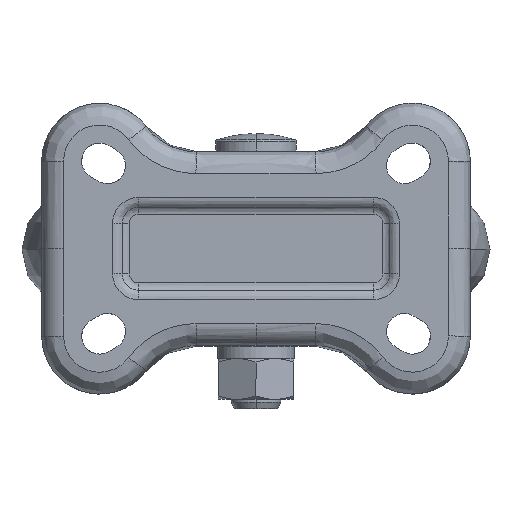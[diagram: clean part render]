
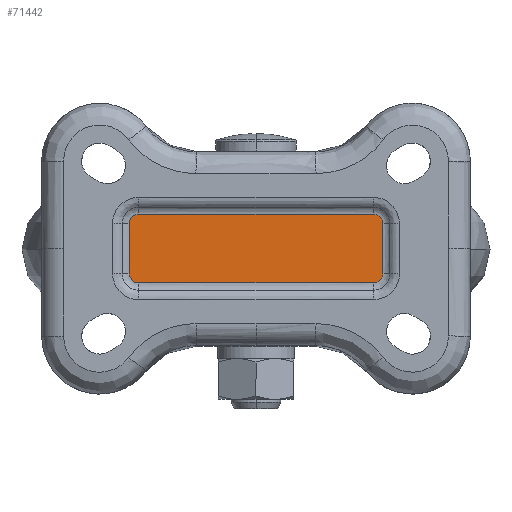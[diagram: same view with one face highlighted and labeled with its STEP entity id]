
A CAD part, top view. The second image highlights one B-rep face of the part: STEP entity #71442.
In plain terms, the highlighted planar face has unit normal (0, 0, 1).
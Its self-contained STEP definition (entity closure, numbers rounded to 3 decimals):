
#1800 = ORIENTED_EDGE ( 'NONE', *, *, #71069, .F. ) ;
#1801 = ORIENTED_EDGE ( 'NONE', *, *, #71083, .T. ) ;
#1802 = ORIENTED_EDGE ( 'NONE', *, *, #71103, .T. ) ;
#1803 = ORIENTED_EDGE ( 'NONE', *, *, #71071, .F. ) ;
#1804 = ORIENTED_EDGE ( 'NONE', *, *, #71066, .T. ) ;
#1805 = ORIENTED_EDGE ( 'NONE', *, *, #71106, .F. ) ;
#1806 = ORIENTED_EDGE ( 'NONE', *, *, #71082, .F. ) ;
#1807 = ORIENTED_EDGE ( 'NONE', *, *, #71079, .T. ) ;
#7178 = CARTESIAN_POINT ( 'NONE',  ( 37.5, 11., -2.5 ) ) ;
#7180 = CARTESIAN_POINT ( 'NONE',  ( 40.5, 8., -2.5 ) ) ;
#7181 = CARTESIAN_POINT ( 'NONE',  ( -37.5, 11., -2.5 ) ) ;
#7183 = CARTESIAN_POINT ( 'NONE',  ( -40.5, 8., -2.5 ) ) ;
#7185 = CARTESIAN_POINT ( 'NONE',  ( -40.5, -8., -2.5 ) ) ;
#7186 = CARTESIAN_POINT ( 'NONE',  ( -37.5, -11., -2.5 ) ) ;
#7188 = CARTESIAN_POINT ( 'NONE',  ( 37.5, -11., -2.5 ) ) ;
#7189 = CARTESIAN_POINT ( 'NONE',  ( 40.5, -8., -2.5 ) ) ;
#8666 = B_SPLINE_CURVE_WITH_KNOTS ( 'NONE', 3,
 ( #11311, #11336, #11337, #11338, #11339, #11340, #11341, #11342, #11343, #11344, #11345, #11346 ),
 .UNSPECIFIED., .F., .F.,
 ( 4, 2, 2, 2, 2, 4 ),
 ( 0., 0.25, 0.5, 0.625, 0.75, 1. ),
 .UNSPECIFIED. ) ;
#8672 = B_SPLINE_CURVE_WITH_KNOTS ( 'NONE', 3,
 ( #11347, #11369, #11370, #11371, #11372, #11373, #11374, #11375, #11376, #11377 ),
 .UNSPECIFIED., .F., .F.,
 ( 4, 3, 3, 4 ),
 ( 0., 0.333, 0.667, 1. ),
 .UNSPECIFIED. ) ;
#8685 = B_SPLINE_CURVE_WITH_KNOTS ( 'NONE', 3,
 ( #11428, #11448, #11449, #11450, #11451, #11452, #11453, #11454, #11455, #11456 ),
 .UNSPECIFIED., .F., .F.,
 ( 4, 3, 3, 4 ),
 ( 0., 0.333, 0.667, 1. ),
 .UNSPECIFIED. ) ;
#8714 = B_SPLINE_CURVE_WITH_KNOTS ( 'NONE', 3,
 ( #11616, #11619, #11620, #11621, #11622, #11623, #11624, #11625, #11626, #11627 ),
 .UNSPECIFIED., .F., .F.,
 ( 4, 2, 2, 2, 4 ),
 ( 0., 0.25, 0.5, 0.75, 1. ),
 .UNSPECIFIED. ) ;
#11311 = CARTESIAN_POINT ( 'NONE',  ( -40.5, -8., -2.5 ) ) ;
#11336 = CARTESIAN_POINT ( 'NONE',  ( -40.5, -8.395, -2.5 ) ) ;
#11337 = CARTESIAN_POINT ( 'NONE',  ( -40.423, -8.783, -2.5 ) ) ;
#11338 = CARTESIAN_POINT ( 'NONE',  ( -40.121, -9.512, -2.5 ) ) ;
#11339 = CARTESIAN_POINT ( 'NONE',  ( -39.899, -9.844, -2.5 ) ) ;
#11340 = CARTESIAN_POINT ( 'NONE',  ( -39.482, -10.26, -2.5 ) ) ;
#11341 = CARTESIAN_POINT ( 'NONE',  ( -39.331, -10.384, -2.5 ) ) ;
#11342 = CARTESIAN_POINT ( 'NONE',  ( -39.003, -10.604, -2.5 ) ) ;
#11343 = CARTESIAN_POINT ( 'NONE',  ( -38.829, -10.697, -2.5 ) ) ;
#11344 = CARTESIAN_POINT ( 'NONE',  ( -38.285, -10.922, -2.5 ) ) ;
#11345 = CARTESIAN_POINT ( 'NONE',  ( -37.895, -11., -2.5 ) ) ;
#11346 = CARTESIAN_POINT ( 'NONE',  ( -37.5, -11., -2.5 ) ) ;
#11347 = CARTESIAN_POINT ( 'NONE',  ( 37.5, 11., -2.5 ) ) ;
#11369 = CARTESIAN_POINT ( 'NONE',  ( 38.027, 11., -2.5 ) ) ;
#11370 = CARTESIAN_POINT ( 'NONE',  ( 38.544, 10.861, -2.5 ) ) ;
#11371 = CARTESIAN_POINT ( 'NONE',  ( 39., 10.598, -2.5 ) ) ;
#11372 = CARTESIAN_POINT ( 'NONE',  ( 39.456, 10.335, -2.5 ) ) ;
#11373 = CARTESIAN_POINT ( 'NONE',  ( 39.835, 9.956, -2.5 ) ) ;
#11374 = CARTESIAN_POINT ( 'NONE',  ( 40.098, 9.5, -2.5 ) ) ;
#11375 = CARTESIAN_POINT ( 'NONE',  ( 40.361, 9.044, -2.5 ) ) ;
#11376 = CARTESIAN_POINT ( 'NONE',  ( 40.5, 8.527, -2.5 ) ) ;
#11377 = CARTESIAN_POINT ( 'NONE',  ( 40.5, 8., -2.5 ) ) ;
#11396 = CARTESIAN_POINT ( 'NONE',  ( -40.5, -13.2, -2.5 ) ) ;
#11397 = DIRECTION ( 'NONE',  ( 0., 1., 0. ) ) ;
#11428 = CARTESIAN_POINT ( 'NONE',  ( 40.5, -8., -2.5 ) ) ;
#11441 = CARTESIAN_POINT ( 'NONE',  ( 40.5, -13.2, -2.5 ) ) ;
#11442 = DIRECTION ( 'NONE',  ( 0., 1., 0. ) ) ;
#11448 = CARTESIAN_POINT ( 'NONE',  ( 40.5, -8.527, -2.5 ) ) ;
#11449 = CARTESIAN_POINT ( 'NONE',  ( 40.361, -9.044, -2.5 ) ) ;
#11450 = CARTESIAN_POINT ( 'NONE',  ( 40.098, -9.5, -2.5 ) ) ;
#11451 = CARTESIAN_POINT ( 'NONE',  ( 39.835, -9.956, -2.5 ) ) ;
#11452 = CARTESIAN_POINT ( 'NONE',  ( 39.456, -10.335, -2.5 ) ) ;
#11453 = CARTESIAN_POINT ( 'NONE',  ( 39., -10.598, -2.5 ) ) ;
#11454 = CARTESIAN_POINT ( 'NONE',  ( 38.544, -10.861, -2.5 ) ) ;
#11455 = CARTESIAN_POINT ( 'NONE',  ( 38.027, -11., -2.5 ) ) ;
#11456 = CARTESIAN_POINT ( 'NONE',  ( 37.5, -11., -2.5 ) ) ;
#11457 = CARTESIAN_POINT ( 'NONE',  ( -48.6, 11., -2.5 ) ) ;
#11458 = DIRECTION ( 'NONE',  ( -1., 0., 0. ) ) ;
#11616 = CARTESIAN_POINT ( 'NONE',  ( -37.5, 11., -2.5 ) ) ;
#11619 = CARTESIAN_POINT ( 'NONE',  ( -37.898, 11., -2.5 ) ) ;
#11620 = CARTESIAN_POINT ( 'NONE',  ( -38.28, 10.924, -2.5 ) ) ;
#11621 = CARTESIAN_POINT ( 'NONE',  ( -39.015, 10.62, -2.5 ) ) ;
#11622 = CARTESIAN_POINT ( 'NONE',  ( -39.34, 10.403, -2.5 ) ) ;
#11623 = CARTESIAN_POINT ( 'NONE',  ( -39.903, 9.84, -2.5 ) ) ;
#11624 = CARTESIAN_POINT ( 'NONE',  ( -40.12, 9.514, -2.5 ) ) ;
#11625 = CARTESIAN_POINT ( 'NONE',  ( -40.424, 8.78, -2.5 ) ) ;
#11626 = CARTESIAN_POINT ( 'NONE',  ( -40.5, 8.398, -2.5 ) ) ;
#11627 = CARTESIAN_POINT ( 'NONE',  ( -40.5, 8., -2.5 ) ) ;
#11632 = CARTESIAN_POINT ( 'NONE',  ( -48.6, -11., -2.5 ) ) ;
#11633 = DIRECTION ( 'NONE',  ( -1., 0., 0. ) ) ;
#14709 = AXIS2_PLACEMENT_3D ( 'NONE', #44956, #44962, #44963 ) ;
#33237 = FACE_OUTER_BOUND ( 'NONE', #71642, .T. ) ;
#44953 = PLANE ( 'NONE',  #14709 ) ;
#44956 = CARTESIAN_POINT ( 'NONE',  ( -48.6, -13.2, -2.5 ) ) ;
#44962 = DIRECTION ( 'NONE',  ( 0., 0., 1. ) ) ;
#44963 = DIRECTION ( 'NONE',  ( 1., 0., 0. ) ) ;
#63415 = VERTEX_POINT ( 'NONE', #7178 ) ;
#63416 = VERTEX_POINT ( 'NONE', #7180 ) ;
#63417 = VERTEX_POINT ( 'NONE', #7181 ) ;
#63418 = VERTEX_POINT ( 'NONE', #7183 ) ;
#63419 = VERTEX_POINT ( 'NONE', #7185 ) ;
#63420 = VERTEX_POINT ( 'NONE', #7186 ) ;
#63421 = VERTEX_POINT ( 'NONE', #7188 ) ;
#63422 = VERTEX_POINT ( 'NONE', #7189 ) ;
#65469 = VECTOR ( 'NONE', #11397, 1000. ) ;
#65473 = LINE ( 'NONE', #11396, #65469 ) ;
#65479 = VECTOR ( 'NONE', #11442, 1000. ) ;
#65481 = LINE ( 'NONE', #11441, #65479 ) ;
#65482 = LINE ( 'NONE', #11457, #65483 ) ;
#65483 = VECTOR ( 'NONE', #11458, 1000. ) ;
#65512 = LINE ( 'NONE', #11632, #65513 ) ;
#65513 = VECTOR ( 'NONE', #11633, 1000. ) ;
#71066 = EDGE_CURVE ( 'NONE', #63419, #63420, #8666, .T. ) ;
#71069 = EDGE_CURVE ( 'NONE', #63415, #63416, #8672, .T. ) ;
#71071 = EDGE_CURVE ( 'NONE', #63419, #63418, #65473, .T. ) ;
#71079 = EDGE_CURVE ( 'NONE', #63422, #63416, #65481, .T. ) ;
#71082 = EDGE_CURVE ( 'NONE', #63422, #63421, #8685, .T. ) ;
#71083 = EDGE_CURVE ( 'NONE', #63415, #63417, #65482, .T. ) ;
#71103 = EDGE_CURVE ( 'NONE', #63417, #63418, #8714, .T. ) ;
#71106 = EDGE_CURVE ( 'NONE', #63421, #63420, #65512, .T. ) ;
#71442 = ADVANCED_FACE ( 'NONE', ( #33237 ), #44953, .T. ) ;
#71642 = EDGE_LOOP ( 'NONE', ( #1800, #1801, #1802, #1803, #1804, #1805, #1806, #1807 ) ) ;
